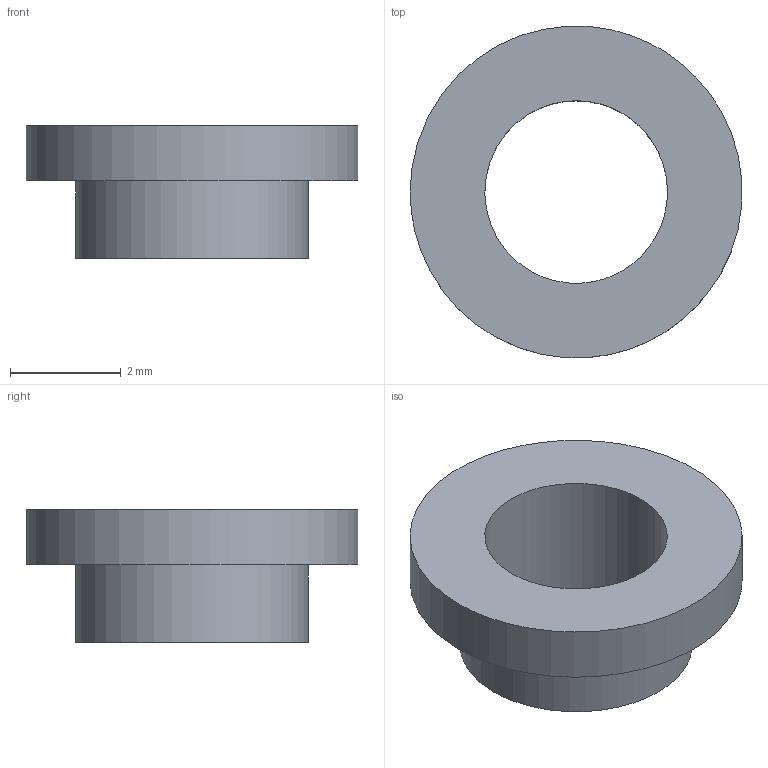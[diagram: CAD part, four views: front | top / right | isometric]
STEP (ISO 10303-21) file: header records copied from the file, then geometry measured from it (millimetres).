
FILE_DESCRIPTION(('FreeCAD Model'),'2;1');
FILE_NAME('Open CASCADE Shape Model','2026-03-20T17:23:01',('Author'),( ''),'Open CASCADE STEP processor 7.8','FreeCAD','Unknown');
FILE_SCHEMA(('AP242_MANAGED_MODEL_BASED_3D_ENGINEERING_MIM_LF. {1 0 10303 442 1 1 4 }'));
Length unit declared in the file: millimetre
Products named in the file (1): 1_transformed
Bounding box: 5.99 x 5.99 x 2.4 mm (x, y, z)
Volume: 27.4 mm3; surface area: 101.8 mm2
Topology: 1 solids, 1 shells, 6 faces, 9 edges, 6 vertices
Faces by surface type: bspline 6
Entity records: 201 total; most frequent: CARTESIAN_POINT 109, ORIENTED_EDGE 18, FACE_BOUND 9, EDGE_LOOP 9, EDGE_CURVE 9, ADVANCED_FACE 6, VERTEX_POINT 6, B_SPLINE_SURFACE_WITH_KNOTS 3
